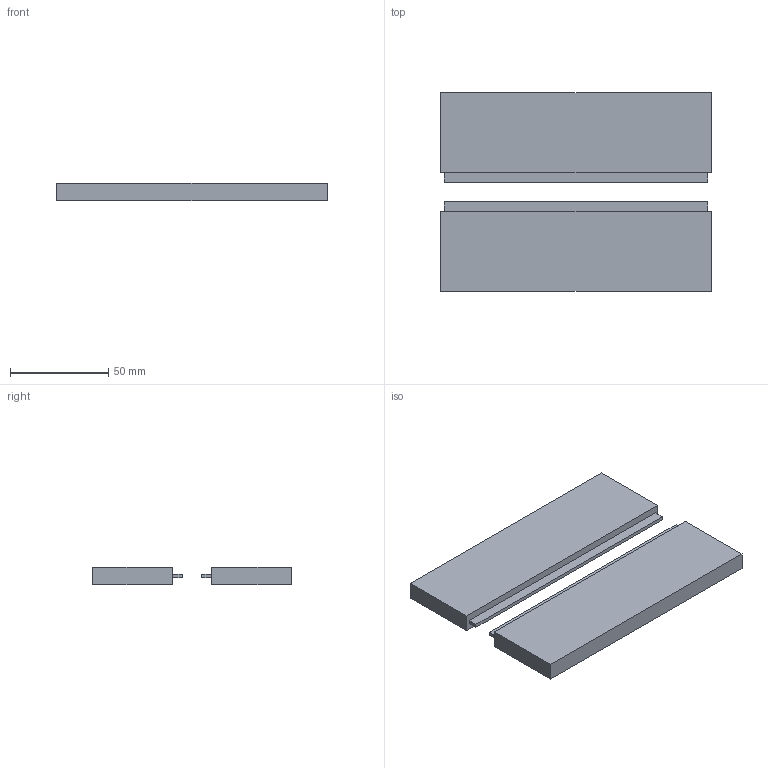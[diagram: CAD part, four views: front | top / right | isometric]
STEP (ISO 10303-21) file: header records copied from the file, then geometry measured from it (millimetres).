
FILE_DESCRIPTION(('Open CASCADE Model'),'2;1');
FILE_NAME('Open CASCADE Shape Model','2026-11-03T10:21:06',('Author'),( 'Open CASCADE'),'Open CASCADE STEP processor 8.0','build123d', 'Unknown');
FILE_SCHEMA(('AUTOMOTIVE_DESIGN { 1 0 10303 214 1 1 1 1 }'));
Length unit declared in the file: millimetre
Products named in the file (1): COMPOUND
Bounding box: 137.6 x 101 x 9.1 mm (x, y, z)
Volume: 104180.3 mm3; surface area: 31549.1 mm2
Topology: 2 solids, 2 shells, 22 faces, 48 edges, 32 vertices
Faces by surface type: plane 22
Entity records: 1208 total; most frequent: CARTESIAN_POINT 215, DIRECTION 174, LINE 128, VECTOR 128, ORIENTED_EDGE 96, PCURVE 96, DEFINITIONAL_REPRESENTATION 96, EDGE_CURVE 48
